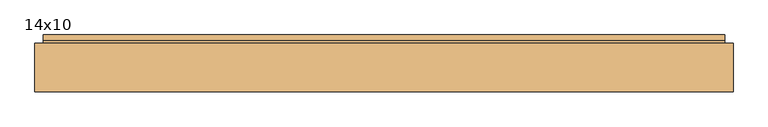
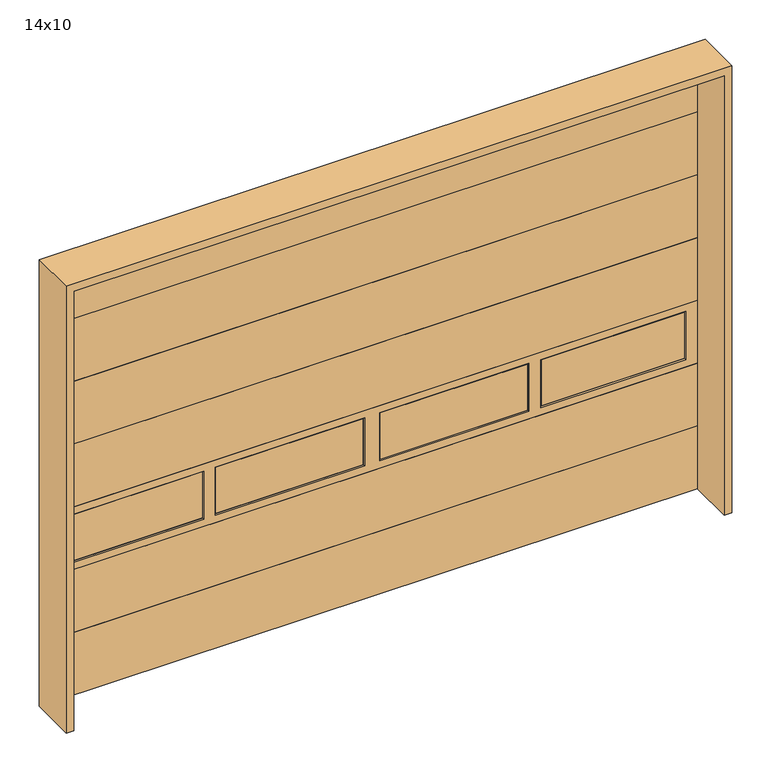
"""IFC4 building model written with IfcOpenShell, lengths in millimetres: door geometry, OH-doorwithglass_BA : 14x10."""

from ifc_helpers import new_model, si_unit, frame, origin, origin_with_axes, place, context, project, spatial, polyline, outline, extrude, source, transform, mapped, element, save


def door_14x10_2fe4b0a0(model_context):
    return source(origin(), model_context, "Body", "SweptSolid", [
        extrude(outline(polyline([(-2220.6751217, 304.8), (-2220.6751217, 317.5), (2046.5248783, 317.5), (2046.5248783, 304.8), (-2220.6751217, 304.8)])), frame((0.0, 0.0, 1306.2857143), z_axis=(0.0, 0.0, 1.0), x_axis=(1.0, 0.0, 0.0)), (0.0, 0.0, 1.0), 435.4285714),
        extrude(outline(polyline([(-2220.6751217, 304.8), (-2220.6751217, 317.5), (2046.5248783, 317.5), (2046.5248783, 304.8), (-2220.6751217, 304.8)])), frame((0.0, 0.0, 435.4285714), z_axis=(0.0, 0.0, 1.0), x_axis=(1.0, 0.0, 0.0)), (0.0, 0.0, 1.0), 435.4285714),
        extrude(outline(polyline([(-2220.6751217, 304.8), (-2220.6751217, 317.5), (2046.5248783, 317.5), (2046.5248783, 304.8), (-2220.6751217, 304.8)])), frame((0.0, 0.0, 1741.7142857), z_axis=(0.0, 0.0, 1.0), x_axis=(1.0, 0.0, 0.0)), (0.0, 0.0, 1.0), 435.4285714),
        extrude(outline(polyline([(-2220.6751217, 304.8), (-2220.6751217, 317.5), (2046.5248783, 317.5), (2046.5248783, 304.8), (-2220.6751217, 304.8)])), frame((0.0, 0.0, 2612.5714286), z_axis=(0.0, 0.0, 1.0), x_axis=(1.0, 0.0, 0.0)), (0.0, 0.0, 1.0), 435.4285714),
        extrude(outline(polyline([(-2220.6751217, 304.8), (-2220.6751217, 317.5), (2046.5248783, 317.5), (2046.5248783, 304.8), (-2220.6751217, 304.8)])), origin_with_axes(), (0.0, 0.0, 1.0), 435.4285714),
        extrude(outline(polyline([(1024.1748783, 311.15), (1024.1748783, 336.55), (1963.9748783, 336.55), (1963.9748783, 311.15), (1024.1748783, 311.15)])), frame((0.0, 0.0, 928.0071429), z_axis=(0.0, 0.0, 1.0), x_axis=(1.0, 0.0, 0.0)), (0.0, 0.0, 1.0), 321.1285714),
        extrude(outline(polyline([(-29.9251217, 311.15), (-29.9251217, 336.55), (935.2748783, 336.55), (935.2748783, 311.15), (-29.9251217, 311.15)])), frame((0.0, 0.0, 928.0071429), z_axis=(0.0, 0.0, 1.0), x_axis=(1.0, 0.0, 0.0)), (0.0, 0.0, 1.0), 321.1285714),
        extrude(outline(polyline([(-1109.4251217, 311.15), (-1109.4251217, 336.55), (-144.2251217, 336.55), (-144.2251217, 311.15), (-1109.4251217, 311.15)])), frame((0.0, 0.0, 928.0071429), z_axis=(0.0, 0.0, 1.0), x_axis=(1.0, 0.0, 0.0)), (0.0, 0.0, 1.0), 321.1285714),
        extrude(outline(polyline([(-2138.1251217, 311.15), (-2138.1251217, 336.55), (-1198.3251217, 336.55), (-1198.3251217, 311.15), (-2138.1251217, 311.15)])), frame((0.0, 0.0, 928.0071429), z_axis=(0.0, 0.0, 1.0), x_axis=(1.0, 0.0, 0.0)), (0.0, 0.0, 1.0), 321.1285714),
        extrude(outline(polyline([(1306.2857143, -2220.6751217), (870.8571429, -2220.6751217), (870.8571429, 2046.5248783), (1306.2857143, 2046.5248783), (1306.2857143, -2220.6751217)]), holes=[polyline([(1255.4857143, 1017.8248783), (1255.4857143, 1970.3248783), (921.6571429, 1970.3248783), (921.6571429, 1017.8248783), (1255.4857143, 1017.8248783)]), polyline([(1255.4857143, -36.2751217), (1255.4857143, 941.6248783), (921.6571429, 941.6248783), (921.6571429, -36.2751217), (1255.4857143, -36.2751217)]), polyline([(1255.4857143, -1115.7751217), (1255.4857143, -137.8751217), (921.6571429, -137.8751217), (921.6571429, -1115.7751217), (1255.4857143, -1115.7751217)]), polyline([(1255.4857143, -2144.4751217), (1255.4857143, -1191.9751217), (921.6571429, -1191.9751217), (921.6571429, -2144.4751217), (1255.4857143, -2144.4751217)])]), frame((0.0, 304.8, 0.0), z_axis=(0.0, 1.0, 0.0), x_axis=(0.0, 0.0, 1.0)), (0.0, 0.0, 1.0), 12.7),
        extrude(outline(polyline([(3048.0, 2046.5248783), (0.0, 2046.5248783), (0.0, 2097.3248783), (3098.8, 2097.3248783), (3098.8, -2271.4751217), (0.0, -2271.4751217), (0.0, -2220.6751217), (3048.0, -2220.6751217), (3048.0, 2046.5248783)])), frame((0.0, 0.0, 0.0), z_axis=(0.0, 1.0, 0.0), x_axis=(0.0, 0.0, 1.0)), (0.0, 0.0, 1.0), 304.8),
        extrude(outline(polyline([(3048.0, -2220.6751217), (0.0, -2220.6751217), (0.0, 2046.5248783), (3048.0, 2046.5248783), (3048.0, -2220.6751217)]), holes=[polyline([(1249.1357143, 1024.1748783), (1249.1357143, 1963.9748783), (928.0071429, 1963.9748783), (928.0071429, 1024.1748783), (1249.1357143, 1024.1748783)]), polyline([(1249.1357143, -29.9251217), (1249.1357143, 935.2748783), (928.0071429, 935.2748783), (928.0071429, -29.9251217), (1249.1357143, -29.9251217)]), polyline([(1249.1357143, -1109.4251217), (1249.1357143, -144.2251217), (928.0071429, -144.2251217), (928.0071429, -1109.4251217), (1249.1357143, -1109.4251217)]), polyline([(1249.1357143, -2138.1251217), (1249.1357143, -1198.3251217), (928.0071429, -1198.3251217), (928.0071429, -2138.1251217), (1249.1357143, -2138.1251217)])]), frame((0.0, 317.5, 0.0), z_axis=(0.0, 1.0, 0.0), x_axis=(0.0, 0.0, 1.0)), (0.0, 0.0, 1.0), 38.1),
        extrude(outline(polyline([(-2220.6751217, 304.8), (-2220.6751217, 317.5), (2046.5248783, 317.5), (2046.5248783, 304.8), (-2220.6751217, 304.8)])), frame((0.0, 0.0, 2177.1428571), z_axis=(0.0, 0.0, 1.0), x_axis=(1.0, 0.0, 0.0)), (0.0, 0.0, 1.0), 435.4285714),
    ])


if __name__ == "__main__":
    model = new_model("IFC4")
    model_context = context("Model", 3, world=origin())
    ifc_project = project(units=[si_unit("LENGTHUNIT", "METRE", prefix="MILLI")], contexts=[model_context])
    site = spatial("IfcSite", under=ifc_project)
    building = spatial("IfcBuilding", under=site)
    placement = place(None, origin())
    door_14x10_shape = door_14x10_2fe4b0a0(model_context)
    element("IfcDoor", 1, ObjectType="OH-doorwithglass_BA : 14x10", at=placement, inside=building, context=model_context, shape_type="MappedRepresentation", body=[
        mapped(door_14x10_shape, transform((0.0, 0.0, 0.0), x_axis=(1.0, 0.0, 0.0), y_axis=(0.0, 1.0, 0.0), z_axis=(0.0, 0.0, 1.0))),
    ])
    save(model, "model.ifc")
